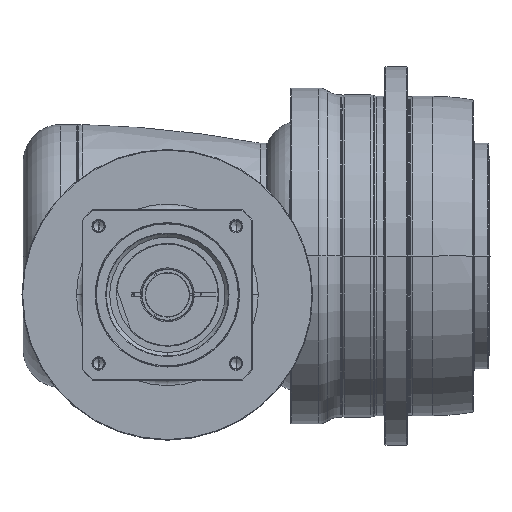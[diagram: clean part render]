
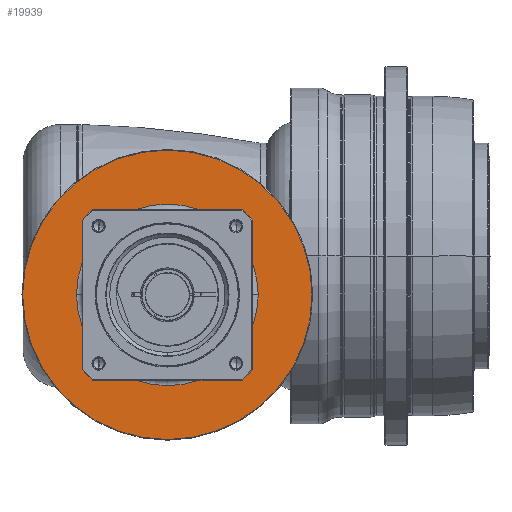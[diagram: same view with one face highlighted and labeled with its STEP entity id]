
A CAD part, front view. The second image highlights one B-rep face of the part: STEP entity #19939.
In plain terms, the highlighted planar face has unit normal (0, -1, 0) as drawn and (1, 0, 0) by its records, which use the part's own axes.
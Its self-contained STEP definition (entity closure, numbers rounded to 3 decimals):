
#19418=CARTESIAN_POINT('',(-7.5,0.,0.));
#19419=DIRECTION('',(-1.,0.,0.));
#19420=DIRECTION('',(0.,-1.,0.));
#19421=AXIS2_PLACEMENT_3D('',#19418,#19419,#19420);
#19423=CARTESIAN_POINT('',(-7.5,0.,0.));
#19424=DIRECTION('',(-1.,0.,0.));
#19425=DIRECTION('',(0.,1.,0.));
#19426=AXIS2_PLACEMENT_3D('',#19423,#19424,#19425);
#19428=CARTESIAN_POINT('',(-7.5,0.,0.));
#19429=DIRECTION('',(-1.,0.,0.));
#19430=DIRECTION('',(0.,-1.,0.));
#19431=AXIS2_PLACEMENT_3D('',#19428,#19429,#19430);
#19433=CARTESIAN_POINT('',(-7.5,0.,0.));
#19434=DIRECTION('',(-1.,0.,0.));
#19435=DIRECTION('',(0.,1.,0.));
#19436=AXIS2_PLACEMENT_3D('',#19433,#19434,#19435);
#19502=CARTESIAN_POINT('',(-7.5,-115.5,0.));
#19503=CARTESIAN_POINT('',(-7.5,115.5,0.));
#19504=VERTEX_POINT('',#19502);
#19505=VERTEX_POINT('',#19503);
#19526=CARTESIAN_POINT('',(-7.5,-72.5,0.));
#19527=CARTESIAN_POINT('',(-7.5,72.5,0.));
#19528=VERTEX_POINT('',#19526);
#19529=VERTEX_POINT('',#19527);
#19924=CARTESIAN_POINT('',(-7.5,0.,0.));
#19925=DIRECTION('',(1.,0.,0.));
#19926=DIRECTION('',(0.,-1.,0.));
#19927=AXIS2_PLACEMENT_3D('',#19924,#19925,#19926);
#19928=PLANE('',#19927);
#19929=ORIENTED_EDGE('',*,*,#19865,.T.);
#19930=ORIENTED_EDGE('',*,*,#19880,.T.);
#19931=EDGE_LOOP('',(#19929,#19930));
#19932=FACE_OUTER_BOUND('',#19931,.F.);
#19934=ORIENTED_EDGE('',*,*,#19933,.F.);
#19936=ORIENTED_EDGE('',*,*,#19935,.F.);
#19937=EDGE_LOOP('',(#19934,#19936));
#19938=FACE_BOUND('',#19937,.F.);
#19939=ADVANCED_FACE('',(#19932,#19938),#19928,.T.);
#19422=CIRCLE('',#19421,72.5);
#19427=CIRCLE('',#19426,72.5);
#19432=CIRCLE('',#19431,115.5);
#19437=CIRCLE('',#19436,115.5);
#19865=EDGE_CURVE('',#19504,#19505,#19432,.T.);
#19880=EDGE_CURVE('',#19505,#19504,#19437,.T.);
#19933=EDGE_CURVE('',#19528,#19529,#19422,.T.);
#19935=EDGE_CURVE('',#19529,#19528,#19427,.T.);
